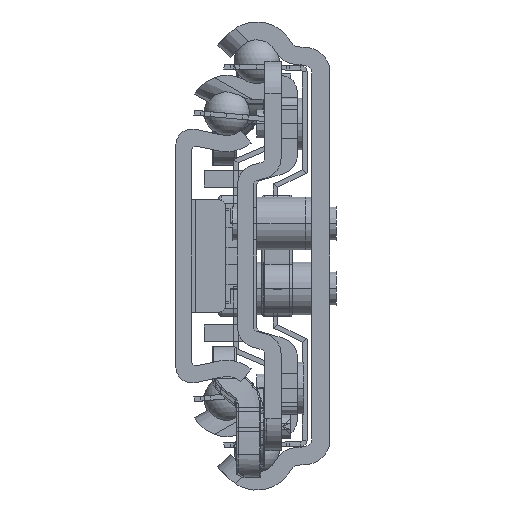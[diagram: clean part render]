
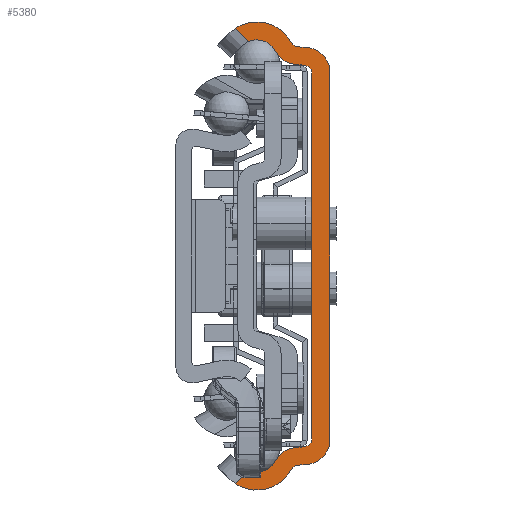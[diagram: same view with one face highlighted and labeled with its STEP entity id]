
A CAD part, left-side view. The second image highlights one B-rep face of the part: STEP entity #5380.
In plain terms, the highlighted planar face has unit normal (-1, 0, 0).
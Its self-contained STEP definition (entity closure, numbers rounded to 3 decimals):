
#1=DIRECTION('',(0.,0.717,-0.697));
#2=VECTOR('',#1,2.305);
#3=CARTESIAN_POINT('',(-500.,9.972,-26.461));
#4=LINE('',#3,#2);
#5=CARTESIAN_POINT('',(-500.,9.,-24.05));
#6=DIRECTION('',(-1.,0.,0.));
#7=DIRECTION('',(0.,0.374,-0.927));
#8=AXIS2_PLACEMENT_3D('',#5,#6,#7);
#10=CARTESIAN_POINT('',(-500.,4.005,-26.582));
#11=DIRECTION('',(-1.,0.,0.));
#12=DIRECTION('',(0.,0.07,0.998));
#13=AXIS2_PLACEMENT_3D('',#10,#11,#12);
#15=DIRECTION('',(0.,-0.998,0.07));
#16=VECTOR('',#15,1.087);
#17=CARTESIAN_POINT('',(-500.,4.214,-23.589));
#18=LINE('',#17,#16);
#19=DIRECTION('',(0.,0.,1.));
#20=VECTOR('',#19,45.032);
#21=CARTESIAN_POINT('',(-500.,2.2,-22.516));
#22=LINE('',#21,#20);
#23=DIRECTION('',(0.,0.998,0.07));
#24=VECTOR('',#23,1.087);
#25=CARTESIAN_POINT('',(-500.,3.13,23.514));
#26=LINE('',#25,#24);
#27=CARTESIAN_POINT('',(-500.,4.005,26.582));
#28=DIRECTION('',(-1.,0.,0.));
#29=DIRECTION('',(0.,0.892,-0.452));
#30=AXIS2_PLACEMENT_3D('',#27,#28,#29);
#32=CARTESIAN_POINT('',(-500.,9.,24.05));
#33=DIRECTION('',(-1.,0.,0.));
#34=DIRECTION('',(0.,-0.892,0.452));
#35=AXIS2_PLACEMENT_3D('',#32,#33,#34);
#37=DIRECTION('',(0.,-0.717,-0.697));
#38=VECTOR('',#37,2.305);
#39=CARTESIAN_POINT('',(-500.,11.624,28.069));
#40=LINE('',#39,#38);
#41=CARTESIAN_POINT('',(-500.,9.,24.05));
#42=DIRECTION('',(1.,0.,0.));
#43=DIRECTION('',(0.,0.547,0.837));
#44=AXIS2_PLACEMENT_3D('',#41,#42,#43);
#46=DIRECTION('',(0.,-0.998,-0.07));
#47=VECTOR('',#46,1.161);
#48=CARTESIAN_POINT('',(-500.,3.949,25.776));
#49=LINE('',#48,#47);
#50=CARTESIAN_POINT('',(-500.,3.,22.702));
#51=DIRECTION('',(-1.,0.,0.));
#52=DIRECTION('',(0.,-1.,0.));
#53=AXIS2_PLACEMENT_3D('',#50,#51,#52);
#55=DIRECTION('',(0.,0.,-1.));
#56=VECTOR('',#55,45.405);
#57=CARTESIAN_POINT('',(-500.,0.,22.702));
#58=LINE('',#57,#56);
#59=CARTESIAN_POINT('',(-500.,3.,-22.702));
#60=DIRECTION('',(-1.,0.,0.));
#61=DIRECTION('',(0.,-0.07,-0.998));
#62=AXIS2_PLACEMENT_3D('',#59,#60,#61);
#64=DIRECTION('',(0.,0.998,-0.07));
#65=VECTOR('',#64,1.161);
#66=CARTESIAN_POINT('',(-500.,2.791,-25.695));
#67=LINE('',#66,#65);
#68=CARTESIAN_POINT('',(-500.,9.,-24.05));
#69=DIRECTION('',(1.,0.,0.));
#70=DIRECTION('',(0.,-0.883,-0.47));
#71=AXIS2_PLACEMENT_3D('',#68,#69,#70);
#79=CARTESIAN_POINT('',(-500.,11.624,-28.069));
#103=CARTESIAN_POINT('',(-500.,9.972,-26.461));
#195=CARTESIAN_POINT('',(-500.,11.624,28.069));
#201=CARTESIAN_POINT('',(-500.,3.879,26.774));
#202=DIRECTION('',(1.,0.,0.));
#203=DIRECTION('',(0.,0.07,-0.998));
#204=AXIS2_PLACEMENT_3D('',#201,#202,#203);
#1227=CARTESIAN_POINT('',(-500.,3.879,-26.774));
#1228=DIRECTION('',(1.,0.,0.));
#1229=DIRECTION('',(0.,0.883,0.47));
#1230=AXIS2_PLACEMENT_3D('',#1227,#1228,#1229);
#2322=CARTESIAN_POINT('',(-500.,3.2,-22.516));
#2323=DIRECTION('',(1.,0.,0.));
#2324=DIRECTION('',(0.,-1.,0.));
#2325=AXIS2_PLACEMENT_3D('',#2322,#2323,#2324);
#2340=CARTESIAN_POINT('',(-500.,3.2,22.516));
#2341=DIRECTION('',(1.,0.,0.));
#2342=DIRECTION('',(0.,-0.07,0.998));
#2343=AXIS2_PLACEMENT_3D('',#2340,#2341,#2342);
#2364=CARTESIAN_POINT('',(-500.,9.972,26.461));
#4197=CARTESIAN_POINT('',(-500.,2.2,-22.516));
#4199=VERTEX_POINT('',#4197);
#4201=CARTESIAN_POINT('',(-500.,3.13,-23.514));
#4203=VERTEX_POINT('',#4201);
#4205=CARTESIAN_POINT('',(-500.,3.13,23.514));
#4207=VERTEX_POINT('',#4205);
#4209=CARTESIAN_POINT('',(-500.,2.2,22.516));
#4211=VERTEX_POINT('',#4209);
#4213=CARTESIAN_POINT('',(-500.,3.949,25.776));
#4215=VERTEX_POINT('',#4213);
#4217=CARTESIAN_POINT('',(-500.,4.762,26.304));
#4219=VERTEX_POINT('',#4217);
#4221=CARTESIAN_POINT('',(-500.,4.762,-26.304));
#4223=VERTEX_POINT('',#4221);
#4225=CARTESIAN_POINT('',(-500.,3.949,-25.776));
#4227=VERTEX_POINT('',#4225);
#4229=CARTESIAN_POINT('',(-500.,4.214,-23.589));
#4230=CARTESIAN_POINT('',(-500.,6.681,-25.226));
#4231=VERTEX_POINT('',#4229);
#4232=VERTEX_POINT('',#4230);
#4237=CARTESIAN_POINT('',(-500.,6.681,25.226));
#4238=CARTESIAN_POINT('',(-500.,4.214,23.589));
#4239=VERTEX_POINT('',#4237);
#4240=VERTEX_POINT('',#4238);
#4245=CARTESIAN_POINT('',(-500.,0.,22.702));
#4246=CARTESIAN_POINT('',(-500.,2.791,25.695));
#4247=VERTEX_POINT('',#4245);
#4248=VERTEX_POINT('',#4246);
#4253=CARTESIAN_POINT('',(-500.,2.791,-25.695));
#4254=CARTESIAN_POINT('',(-500.,0.,-22.702));
#4255=VERTEX_POINT('',#4253);
#4256=VERTEX_POINT('',#4254);
#4603=VERTEX_POINT('',#79);
#4611=VERTEX_POINT('',#103);
#4612=VERTEX_POINT('',#2364);
#4620=VERTEX_POINT('',#195);
#5333=CARTESIAN_POINT('',(-500.,0.,0.));
#5334=DIRECTION('',(1.,0.,0.));
#5335=DIRECTION('',(0.,-1.,0.));
#5336=AXIS2_PLACEMENT_3D('',#5333,#5334,#5335);
#5337=PLANE('',#5336);
#5339=ORIENTED_EDGE('',*,*,#5338,.F.);
#5341=ORIENTED_EDGE('',*,*,#5340,.T.);
#5343=ORIENTED_EDGE('',*,*,#5342,.F.);
#5345=ORIENTED_EDGE('',*,*,#5344,.T.);
#5347=ORIENTED_EDGE('',*,*,#5346,.F.);
#5349=ORIENTED_EDGE('',*,*,#5348,.T.);
#5351=ORIENTED_EDGE('',*,*,#5350,.F.);
#5353=ORIENTED_EDGE('',*,*,#5352,.T.);
#5355=ORIENTED_EDGE('',*,*,#5354,.F.);
#5357=ORIENTED_EDGE('',*,*,#5356,.T.);
#5359=ORIENTED_EDGE('',*,*,#5358,.F.);
#5361=ORIENTED_EDGE('',*,*,#5360,.T.);
#5363=ORIENTED_EDGE('',*,*,#5362,.F.);
#5365=ORIENTED_EDGE('',*,*,#5364,.T.);
#5367=ORIENTED_EDGE('',*,*,#5366,.F.);
#5369=ORIENTED_EDGE('',*,*,#5368,.T.);
#5371=ORIENTED_EDGE('',*,*,#5370,.F.);
#5373=ORIENTED_EDGE('',*,*,#5372,.T.);
#5375=ORIENTED_EDGE('',*,*,#5374,.F.);
#5377=ORIENTED_EDGE('',*,*,#5376,.T.);
#5378=EDGE_LOOP('',(#5339,#5341,#5343,#5345,#5347,#5349,#5351,#5353,#5355,#5357,
#5359,#5361,#5363,#5365,#5367,#5369,#5371,#5373,#5375,#5377));
#5379=FACE_OUTER_BOUND('',#5378,.F.);
#9=CIRCLE('',#8,2.6);
#14=CIRCLE('',#13,3.);
#31=CIRCLE('',#30,3.);
#36=CIRCLE('',#35,2.6);
#45=CIRCLE('',#44,4.8);
#54=CIRCLE('',#53,3.);
#63=CIRCLE('',#62,3.);
#72=CIRCLE('',#71,4.8);
#205=CIRCLE('',#204,1.);
#1231=CIRCLE('',#1230,1.);
#2326=CIRCLE('',#2325,1.);
#2344=CIRCLE('',#2343,1.);
#5338=EDGE_CURVE('',#4611,#4603,#4,.T.);
#5340=EDGE_CURVE('',#4611,#4232,#9,.T.);
#5342=EDGE_CURVE('',#4231,#4232,#14,.T.);
#5344=EDGE_CURVE('',#4231,#4203,#18,.T.);
#5346=EDGE_CURVE('',#4199,#4203,#2326,.T.);
#5348=EDGE_CURVE('',#4199,#4211,#22,.T.);
#5350=EDGE_CURVE('',#4207,#4211,#2344,.T.);
#5352=EDGE_CURVE('',#4207,#4240,#26,.T.);
#5354=EDGE_CURVE('',#4239,#4240,#31,.T.);
#5356=EDGE_CURVE('',#4239,#4612,#36,.T.);
#5358=EDGE_CURVE('',#4620,#4612,#40,.T.);
#5360=EDGE_CURVE('',#4620,#4219,#45,.T.);
#5362=EDGE_CURVE('',#4215,#4219,#205,.T.);
#5364=EDGE_CURVE('',#4215,#4248,#49,.T.);
#5366=EDGE_CURVE('',#4247,#4248,#54,.T.);
#5368=EDGE_CURVE('',#4247,#4256,#58,.T.);
#5370=EDGE_CURVE('',#4255,#4256,#63,.T.);
#5372=EDGE_CURVE('',#4255,#4227,#67,.T.);
#5374=EDGE_CURVE('',#4223,#4227,#1231,.T.);
#5376=EDGE_CURVE('',#4223,#4603,#72,.T.);
#5380=ADVANCED_FACE('',(#5379),#5337,.F.);
